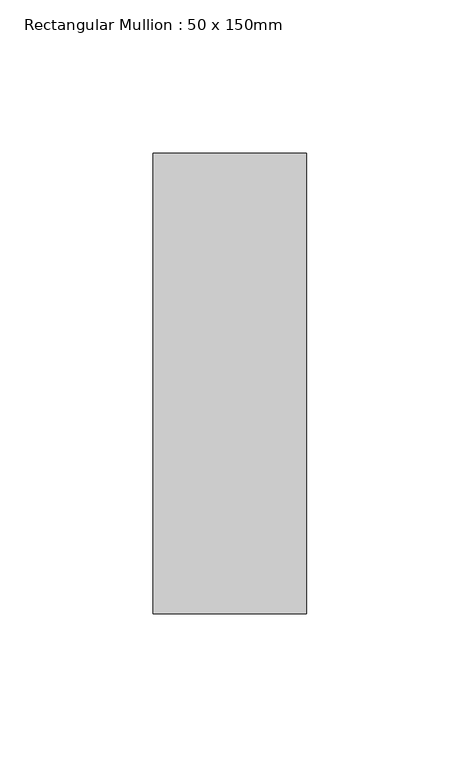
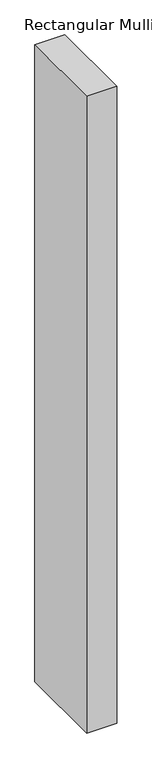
"""IFC4 building model written with IfcOpenShell, lengths in millimetres: member geometry, Rectangular Mullion : 50 x 150mm."""

from ifc_helpers import new_model, si_unit, frame, origin, place, context, project, spatial, polyline, outline, extrude, source, transform, mapped, element, save


def rectangular_mullion_50_x_150mm_f74ebe7a(model_context):
    return source(origin(), model_context, "Body", "SweptSolid", [
        extrude(outline(polyline([(0.0, 75.0), (0.0, -75.0), (-50.0, -75.0), (-50.0, 75.0), (0.0, 75.0)])), frame((0.0, 0.0, -1123.059495), z_axis=(0.0, 0.0, 1.0), x_axis=(1.0, 0.0, 0.0)), (0.0, 0.0, 1.0), 1123.059495),
    ])


if __name__ == "__main__":
    model = new_model("IFC4")
    model_context = context("Model", 3, world=origin())
    ifc_project = project(units=[si_unit("LENGTHUNIT", "METRE", prefix="MILLI")], contexts=[model_context])
    site = spatial("IfcSite", under=ifc_project)
    building = spatial("IfcBuilding", under=site)
    placement = place(None, origin())
    rectangular_mullion_50_x_150mm_shape = rectangular_mullion_50_x_150mm_f74ebe7a(model_context)
    element("IfcMember", 1, ObjectType="Rectangular Mullion : 50 x 150mm", at=placement, inside=building, context=model_context, shape_type="MappedRepresentation", body=[
        mapped(rectangular_mullion_50_x_150mm_shape, transform((0.0, 0.0, 0.0), x_axis=(1.0, 0.0, 0.0), y_axis=(0.0, 1.0, 0.0), z_axis=(0.0, 0.0, 1.0))),
    ])
    save(model, "model.ifc")
